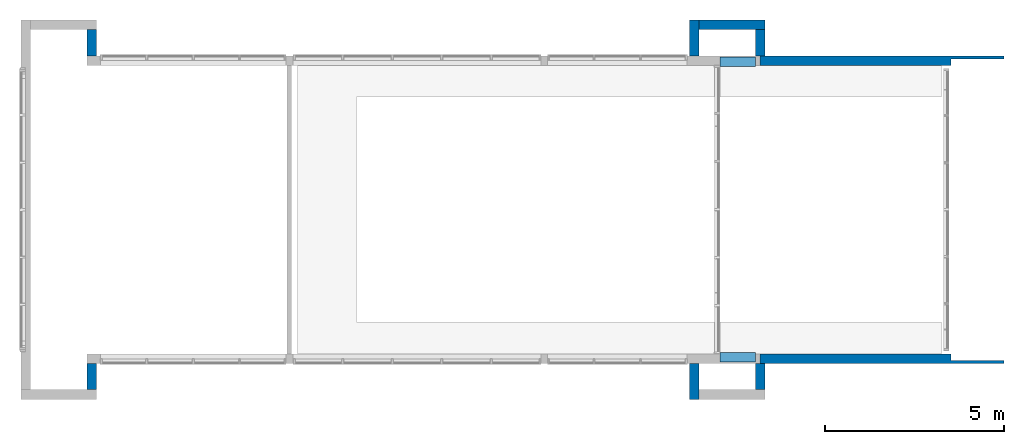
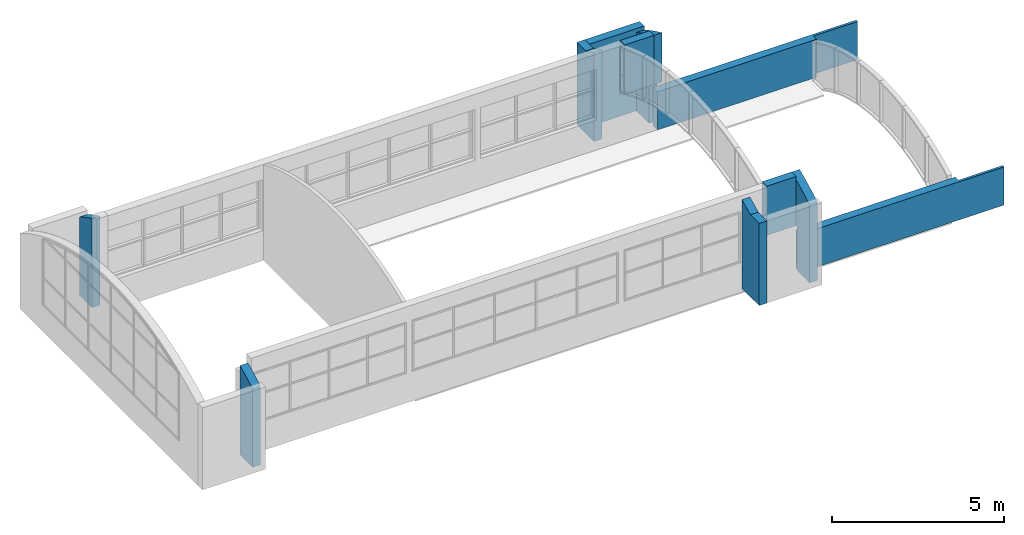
# One storey, part 12 of 14: 11 walls.
"""IFC2X3 building model written with IfcOpenShell, lengths in metres."""

from ifc_helpers import new_model, entity, si_unit, converted_unit, frame, frame_2d, origin, place, context, project, spatial, polyline, rectangle, extrude, clip, bounded_halfspace, face_set, surface_model, material, layer, layer_set, layer_usage, element, save


model = new_model("IFC2X3")

# Units and contexts
model_context = context("Model", 3, precision=1e-09, world=origin())
plan_context = context("Plan", 3, precision=1e-09, world=origin())
ifc_project = project(units=[si_unit("LENGTHUNIT", "METRE"), si_unit("AREAUNIT", "SQUARE_METRE"), si_unit("VOLUMEUNIT", "CUBIC_METRE"), converted_unit("PLANEANGLEUNIT", "DEGREE", entity("IfcRatioMeasure", 0.01745329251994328), si_unit("PLANEANGLEUNIT", "RADIAN"), dimensions=[0, 0, 0, 0, 0, 0, 0]), si_unit("TIMEUNIT", "SECOND")], contexts=[model_context, plan_context])

# Site, building, storey
site_placement = place(None, origin())
site = spatial("IfcSite", under=ifc_project, at=site_placement, Name="Default", CompositionType="ELEMENT")
building_placement = place(site_placement, origin())
building = spatial("IfcBuilding", under=site, at=building_placement, CompositionType="ELEMENT")
storey_placement = place(building_placement, frame((0.0, 0.0, 9.25000000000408)))
storey = spatial("IfcBuildingStorey", under=building, at=storey_placement, Name="Roof - Main", CompositionType="ELEMENT", Elevation=9.25000000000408)

# Walls
ifc_material_1 = material(Name="Insulation - Insulated Panel")
ifc_layer_1 = layer(ifc_material_1, 0.042)
ifc_material_2 = material(Name="Metal - Firring")
ifc_layer_2 = layer(ifc_material_2, 0.038)
ifc_material_3 = material(Name="Wood - Sheathing - plywood")
ifc_layer_3 = layer(ifc_material_3, 0.019)
ifc_material_4 = material(Name="Metal - Stud Layer")
ifc_layer_4 = layer(ifc_material_4, 0.152)
ifc_material_5 = material(Name="Plasterboard")
ifc_layer_5 = layer(ifc_material_5, 0.016)
ifc_layer_set = layer_set([ifc_layer_1, ifc_layer_2, ifc_layer_3, ifc_layer_4, ifc_layer_5], Name="Basic Wall:Exterior - Insul Panel on Mtl. Stud")
ifc_layer_usage_1 = layer_usage(ifc_layer_set, "AXIS2", "NEGATIVE", 0.1335)
wall_1_placement = place(storey_placement, frame((-20.42350000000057, 36.71749013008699, 0.1199999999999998), z_axis=(0.0, 0.0, 1.0), x_axis=(0.0, -1.0, 0.0)))
element("IfcWall", 1, at=wall_1_placement, inside=storey, material=ifc_layer_usage_1, Name="Basic Wall:Exterior - Insul Panel on Mtl. Stud", ObjectType="Basic Wall:Exterior - Insul Panel on Mtl. Stud", context=model_context, shape_type="SurfaceModel", body=[
    surface_model("IfcFaceBasedSurfaceModel", [(0.0, -0.1335, 0.0), (0.7330000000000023, -0.1335, 0.0), (0.732999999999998, -0.1335, 1.558139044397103), (0.7674446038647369, -0.1335, 1.558139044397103), (1.034444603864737, -0.1335, 1.558139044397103), (1.034444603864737, -0.1335, 3.296287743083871), (0.7702721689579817, -0.1335, 3.176411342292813), (0.5096635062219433, -0.1335, 3.048972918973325), (0.2528350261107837, -0.1335, 2.914078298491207), (0.0, -0.1335, 2.771839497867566), (0.0, 0.1335, 0.0), (0.7330000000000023, 0.1335, 0.0), (0.7330000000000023, 0.1335, 1.230828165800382), (0.7330000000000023, 0.1335, 1.558139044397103), (1.0, 0.1335, 1.558139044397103), (1.034444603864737, 0.1335, 1.558139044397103), (1.034444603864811, 0.1335, 3.296287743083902), (0.7702721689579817, 0.1335, 3.176411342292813), (0.5096635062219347, 0.1335, 3.04897291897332), (0.2528350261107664, 0.1335, 2.914078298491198), (0.0, 0.1335, 2.771839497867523)], [face_set([[[0, 1, 2, 3, 4, 5, 6, 7, 8, 9]], [[10, 11, 12, 13, 14, 15, 16, 17, 18, 19, 20]], [[0, 10, 20, 9]], [[1, 0, 10, 11]], [[16, 17, 6, 5]], [[7, 6, 17, 18]], [[19, 20, 9, 8]], [[18, 19, 8, 7]], [[1, 11, 12, 13, 2]], [[5, 4, 15, 16]], [[15, 4, 3, 2, 13, 14]]])]),
])
wall_2_placement = place(storey_placement, frame((-20.42350000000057, 35.85099013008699, 0.0)))
element("IfcWallStandardCase", 2, at=wall_2_placement, inside=storey, material=ifc_layer_usage_1, Name="Basic Wall:Exterior - Insul Panel on Mtl. Stud", ObjectType="Basic Wall:Exterior - Insul Panel on Mtl. Stud", context=model_context, shape_type="Clipping", body=[
    clip(clip(extrude(rectangle(XDim=6.803500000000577, YDim=0.2669999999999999, at=frame_2d((3.401750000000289, 0.0), x_axis=(-1.0, 0.0))), origin(), (0.0, 0.0, 1.0), 1.350828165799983), bounded_halfspace(frame((5.327000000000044, 0.0464138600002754, 1.350828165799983), z_axis=(0.0, 1.0, 0.0), x_axis=(-1.0, 0.0, 0.0)), True, frame((5.327000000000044, 0.0464138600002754, 1.350828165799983), z_axis=(0.0, 1.0, 0.0), x_axis=(-1.0, 0.0, 0.0)), polyline([(0.0, 0.0), (-1.47650000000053, 0.0), (-1.47650000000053, -0.893828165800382), (-1.47650000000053, -1.350828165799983), (0.0, -1.350828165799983), (0.0, 0.0)]))), bounded_halfspace(frame((5.327000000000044, 0.0464138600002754, 0.0), z_axis=(-1.0, 0.0, 0.0), x_axis=(0.0, -1.0, 0.0)), True, frame((5.327000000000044, 0.0464138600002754, 0.0), z_axis=(-1.0, 0.0, 0.0), x_axis=(0.0, -1.0, 0.0)), polyline([(0.0, 0.0), (0.1799138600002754, 0.0), (0.1799138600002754, 1.349999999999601), (0.1799138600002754, 1.350828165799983), (0.0, 1.350828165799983), (0.0, 0.0)]))),
])
ifc_layer_usage_2 = layer_usage(ifc_layer_set, "AXIS2", "POSITIVE", -0.1335)
wall_3_placement = place(storey_placement, frame((-20.42350000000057, 27.53950986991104, 0.0)))
element("IfcWallStandardCase", 3, at=wall_3_placement, inside=storey, material=ifc_layer_usage_2, Name="Basic Wall:Exterior - Insul Panel on Mtl. Stud", ObjectType="Basic Wall:Exterior - Insul Panel on Mtl. Stud", context=model_context, shape_type="Clipping", body=[
    clip(clip(extrude(rectangle(XDim=6.803500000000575, YDim=0.2669999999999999, at=frame_2d((3.401750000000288, 0.0), x_axis=(-1.0, 0.0))), origin(), (0.0, 0.0, 1.0), 1.350828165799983), bounded_halfspace(frame((5.327000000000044, -0.0464138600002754, 0.0), z_axis=(0.0, -1.0, 0.0), x_axis=(1.0, 0.0, 0.0)), True, frame((5.327000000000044, -0.0464138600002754, 0.0), z_axis=(0.0, -1.0, 0.0), x_axis=(1.0, 0.0, 0.0)), polyline([(0.0, 0.0), (1.47650000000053, 0.0), (1.47650000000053, 0.4569999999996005), (1.47650000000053, 1.350828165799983), (0.0, 1.350828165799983), (0.0, 0.0)]))), bounded_halfspace(frame((5.327000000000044, -0.0464138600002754, 1.350828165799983), z_axis=(-1.0, 0.0, 0.0), x_axis=(0.0, -1.0, 0.0)), True, frame((5.327000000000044, -0.0464138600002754, 1.350828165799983), z_axis=(-1.0, 0.0, 0.0), x_axis=(0.0, -1.0, 0.0)), polyline([(0.0, 0.0), (-0.1799138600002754, 0.0), (-0.1799138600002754, -0.0008281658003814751), (-0.1799138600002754, -1.350828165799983), (0.0, -1.350828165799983), (0.0, 0.0)]))),
])
wall_4_placement = place(storey_placement, frame((-20.42350000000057, 26.67300986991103, 0.1199999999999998), z_axis=(0.0, 0.0, 1.0), x_axis=(0.0, 1.0, 0.0)))
element("IfcWall", 4, at=wall_4_placement, inside=storey, material=ifc_layer_usage_2, Name="Basic Wall:Exterior - Insul Panel on Mtl. Stud", ObjectType="Basic Wall:Exterior - Insul Panel on Mtl. Stud", context=model_context, shape_type="SurfaceModel", body=[
    surface_model("IfcFaceBasedSurfaceModel", [(0.0, -0.1335, 0.0), (0.7330000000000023, -0.1335, 0.0), (0.7330000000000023, -0.1335, 1.230828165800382), (0.7330000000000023, -0.1335, 1.558139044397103), (1.0, -0.1335, 1.558139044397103), (1.034444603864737, -0.1335, 1.558139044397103), (1.034444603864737, -0.1335, 3.296287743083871), (0.7702721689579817, -0.1335, 3.176411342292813), (0.5096635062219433, -0.1335, 3.048972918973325), (0.2528350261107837, -0.1335, 2.914078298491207), (0.0, -0.1335, 2.771839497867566), (0.0, 0.1335, 0.0), (0.732999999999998, 0.1335, 0.0), (0.732999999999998, 0.1335, 1.558139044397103), (0.7674446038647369, 0.1335, 1.558139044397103), (1.034444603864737, 0.1335, 1.558139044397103), (1.034444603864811, 0.1335, 3.296287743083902), (0.7702721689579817, 0.1335, 3.176411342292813), (0.5096635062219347, 0.1335, 3.04897291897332), (0.2528350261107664, 0.1335, 2.914078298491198), (0.0, 0.1335, 2.771839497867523)], [face_set([[[0, 1, 2, 3, 4, 5, 6, 7, 8, 9, 10]], [[11, 12, 13, 14, 15, 16, 17, 18, 19, 20]], [[0, 11, 20, 10]], [[1, 0, 11, 12]], [[16, 17, 7, 6]], [[8, 7, 17, 18]], [[19, 20, 10, 9]], [[18, 19, 9, 8]], [[1, 12, 13, 3, 2]], [[6, 5, 15, 16]], [[15, 5, 4, 3, 13, 14]]])]),
])
wall_5_placement = place(storey_placement, frame((-21.54457995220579, 35.81654552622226, 1.678139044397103)))
element("IfcWallStandardCase", 5, at=wall_5_placement, inside=storey, material=ifc_layer_usage_2, Name="Basic Wall:Exterior - Insul Panel on Mtl. Stud", ObjectType="Basic Wall:Exterior - Insul Panel on Mtl. Stud", context=model_context, shape_type="SweptSolid", body=[
    extrude(rectangle(XDim=0.9875799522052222, YDim=0.2669999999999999, at=frame_2d((0.4937899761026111, 0.0), x_axis=(-1.0, 0.0))), origin(), (0.0, 0.0, 1.0), 1.741860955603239),
])
wall_6_placement = place(storey_placement, frame((-39.06745394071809, 26.67250986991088, 0.1199999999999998), z_axis=(0.0, 0.0, 1.0), x_axis=(0.0, 1.0, 0.0)))
element("IfcWall", 6, at=wall_6_placement, inside=storey, material=ifc_layer_usage_2, Name="Basic Wall:Exterior - Insul Panel on Mtl. Stud", ObjectType="Basic Wall:Exterior - Insul Panel on Mtl. Stud", context=model_context, shape_type="SurfaceModel", body=[
    surface_model("IfcFaceBasedSurfaceModel", [(0.0, -0.1334999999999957, 0.0), (0.7330000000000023, -0.1334999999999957, 0.0), (0.7330000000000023, -0.1334999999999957, 3.155468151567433), (0.4851808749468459, -0.1334999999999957, 3.03414161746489), (0.2407861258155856, -0.1334999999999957, 2.906057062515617), (0.0, -0.1334999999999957, 2.771311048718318), (0.0, 0.1335000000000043, 0.0), (0.7330000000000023, 0.1335000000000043, 0.0), (0.7330000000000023, 0.1335000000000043, 2.908195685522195), (0.7330000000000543, 0.1335000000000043, 3.155468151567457), (0.4851808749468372, 0.1335000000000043, 3.034141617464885), (0.240786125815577, 0.1335000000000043, 2.906057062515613), (0.0, 0.1335000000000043, 2.771311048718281)], [face_set([[[0, 1, 2, 3, 4, 5]], [[6, 7, 8, 9, 10, 11, 12]], [[0, 6, 12, 5]], [[2, 1, 7, 8, 9]], [[1, 0, 6, 7]], [[9, 10, 3, 2]], [[4, 3, 10, 11]], [[11, 12, 5, 4]]])]),
])
wall_7_placement = place(storey_placement, frame((-39.06745394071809, 36.71749013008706, 0.1199999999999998), z_axis=(0.0, 0.0, 1.0), x_axis=(0.0, -1.0, 0.0)))
element("IfcWall", 7, at=wall_7_placement, inside=storey, material=ifc_layer_usage_1, Name="Basic Wall:Exterior - Insul Panel on Mtl. Stud", ObjectType="Basic Wall:Exterior - Insul Panel on Mtl. Stud", context=model_context, shape_type="SurfaceModel", body=[
    surface_model("IfcFaceBasedSurfaceModel", [(0.0, -0.1335000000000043, 0.0), (0.7330000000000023, -0.1335000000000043, 0.0), (0.7330000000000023, -0.1335000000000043, 3.155468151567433), (0.4851808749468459, -0.1335000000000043, 3.03414161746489), (0.2407861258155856, -0.1335000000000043, 2.906057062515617), (0.0, -0.1335000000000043, 2.771311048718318), (0.0, 0.1335, 0.0), (0.7330000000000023, 0.1335, 0.0), (0.7330000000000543, 0.1335, 3.155468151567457), (0.4851808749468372, 0.1335, 3.034141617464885), (0.240786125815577, 0.1335, 2.906057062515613), (0.0, 0.1335, 2.771311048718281)], [face_set([[[0, 1, 2, 3, 4, 5]], [[6, 7, 8, 9, 10, 11]], [[0, 6, 11, 5]], [[2, 1, 7, 8]], [[1, 0, 6, 7]], [[8, 9, 3, 2]], [[4, 3, 9, 10]], [[10, 11, 5, 4]]])]),
])
wall_8_placement = place(storey_placement, frame((-21.54457995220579, 27.57395447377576, 1.678139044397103)))
element("IfcWallStandardCase", 8, at=wall_8_placement, inside=storey, material=ifc_layer_usage_1, Name="Basic Wall:Exterior - Insul Panel on Mtl. Stud", ObjectType="Basic Wall:Exterior - Insul Panel on Mtl. Stud", context=model_context, shape_type="SweptSolid", body=[
    extrude(rectangle(XDim=0.9875799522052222, YDim=0.2669999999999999, at=frame_2d((0.4937899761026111, 0.0), x_axis=(-1.0, 0.0))), origin(), (0.0, 0.0, 1.0), 1.741860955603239),
])
wall_9_placement = place(storey_placement, frame((-22.26254605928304, 27.40600986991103, 0.1199999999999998), z_axis=(0.0, 0.0, 1.0), x_axis=(0.0, -1.0, 0.0)))
element("IfcWall", 9, at=wall_9_placement, inside=storey, material=ifc_layer_usage_2, Name="Basic Wall:Exterior - Insul Panel on Mtl. Stud", ObjectType="Basic Wall:Exterior - Insul Panel on Mtl. Stud", context=model_context, shape_type="SurfaceModel", body=[
    surface_model("IfcFaceBasedSurfaceModel", [(0.0, -0.1335, 0.0), (1.0, -0.1335, 0.0), (1.0, -0.1335, 2.908195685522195), (0.488263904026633, -0.1335, 2.908195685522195), (0.2457441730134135, -0.1335, 3.029840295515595), (0.0, -0.1335, 3.144831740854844), (0.0, 0.1335, 0.0), (0.7330000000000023, 0.1335, 0.0), (1.0, 0.1335, 0.0), (1.0, 0.1335, 2.908195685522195), (0.7330000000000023, 0.1335, 2.908195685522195), (0.4882639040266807, 0.1335, 2.908195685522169), (0.2457441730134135, 0.1335, 3.029840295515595), (0.0, 0.1335, 3.144831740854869)], [face_set([[[0, 1, 2, 3, 4, 5]], [[6, 7, 8, 9, 10, 11, 12, 13]], [[2, 1, 8, 9]], [[1, 0, 6, 7, 8]], [[3, 11, 10, 9, 2]], [[4, 3, 11, 12]], [[12, 13, 5, 4]], [[0, 6, 13, 5]]])]),
])
wall_10_placement = place(storey_placement, frame((-22.26254605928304, 35.984490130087, 0.1199999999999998), z_axis=(0.0, 0.0, 1.0), x_axis=(0.0, 1.0, 0.0)))
element("IfcWall", 10, at=wall_10_placement, inside=storey, material=ifc_layer_usage_1, Name="Basic Wall:Exterior - Insul Panel on Mtl. Stud", ObjectType="Basic Wall:Exterior - Insul Panel on Mtl. Stud", context=model_context, shape_type="SurfaceModel", body=[
    surface_model("IfcFaceBasedSurfaceModel", [(0.0, -0.1335, 0.0), (0.7330000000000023, -0.1335, 0.0), (1.0, -0.1335, 0.0), (1.0, -0.1335, 2.908195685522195), (0.7330000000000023, -0.1335, 2.908195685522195), (0.488263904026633, -0.1335, 2.908195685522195), (0.2457441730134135, -0.1335, 3.029840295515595), (0.0, -0.1335, 3.144831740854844), (0.0, 0.1335, 0.0), (1.0, 0.1335, 0.0), (1.0, 0.1335, 2.908195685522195), (0.4882639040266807, 0.1335, 2.908195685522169), (0.2457441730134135, 0.1335, 3.029840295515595), (0.0, 0.1335, 3.144831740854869)], [face_set([[[0, 1, 2, 3, 4, 5, 6, 7]], [[8, 9, 10, 11, 12, 13]], [[3, 2, 9, 10]], [[2, 1, 0, 8, 9]], [[5, 11, 10, 3, 4]], [[6, 5, 11, 12]], [[12, 13, 7, 6]], [[0, 8, 13, 7]]])]),
])
wall_11_placement = place(storey_placement, frame((-22.12904605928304, 36.85099013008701, 0.1199999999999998)))
element("IfcWallStandardCase", 11, at=wall_11_placement, inside=storey, material=ifc_layer_usage_1, Name="Basic Wall:Exterior - Insul Panel on Mtl. Stud", ObjectType="Basic Wall:Exterior - Insul Panel on Mtl. Stud", context=model_context, shape_type="SweptSolid", body=[
    extrude(rectangle(XDim=1.839046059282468, YDim=0.2669999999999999, at=frame_2d((0.9195230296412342, 0.0), x_axis=(-1.0, 0.0))), origin(), (0.0, 0.0, 1.0), 2.908195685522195),
])

save(model, "model.ifc")
